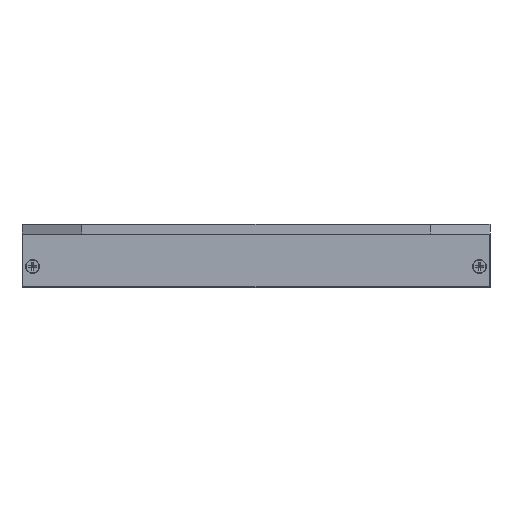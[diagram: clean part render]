
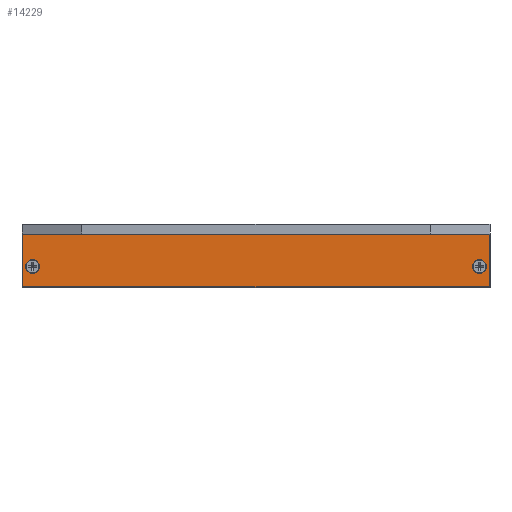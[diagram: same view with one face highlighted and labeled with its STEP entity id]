
A CAD part, front view. The second image highlights one B-rep face of the part: STEP entity #14229.
In plain terms, the highlighted planar face has unit normal (0, -1, 0).
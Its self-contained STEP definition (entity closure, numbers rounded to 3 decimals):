
#341=CARTESIAN_POINT('',(-63.5,-66.5,-9.));
#342=DIRECTION('',(0.,1.,0.));
#343=DIRECTION('',(0.,0.,1.));
#344=AXIS2_PLACEMENT_3D('',#341,#342,#343);
#346=CARTESIAN_POINT('',(-63.5,-66.5,-9.));
#347=DIRECTION('',(0.,1.,0.));
#348=DIRECTION('',(0.,0.,-1.));
#349=AXIS2_PLACEMENT_3D('',#346,#347,#348);
#351=CARTESIAN_POINT('',(63.5,-66.5,-9.));
#352=DIRECTION('',(0.,1.,0.));
#353=DIRECTION('',(0.,0.,-1.));
#354=AXIS2_PLACEMENT_3D('',#351,#352,#353);
#356=CARTESIAN_POINT('',(63.5,-66.5,-9.));
#357=DIRECTION('',(0.,1.,0.));
#358=DIRECTION('',(0.,0.,1.));
#359=AXIS2_PLACEMENT_3D('',#356,#357,#358);
#361=DIRECTION('',(0.,0.,1.));
#362=VECTOR('',#361,14.8);
#363=CARTESIAN_POINT('',(66.3,-66.5,-14.8));
#364=LINE('',#363,#362);
#365=DIRECTION('',(0.,0.,-1.));
#366=VECTOR('',#365,14.8);
#367=CARTESIAN_POINT('',(-66.3,-66.5,0.));
#368=LINE('',#367,#366);
#785=DIRECTION('',(-1.,0.,0.));
#786=VECTOR('',#785,132.6);
#787=CARTESIAN_POINT('',(66.3,-66.5,0.));
#788=LINE('',#787,#786);
#8203=DIRECTION('',(-1.,0.,0.));
#8204=VECTOR('',#8203,132.6);
#8205=CARTESIAN_POINT('',(66.3,-66.5,-14.8));
#8206=LINE('',#8205,#8204);
#11075=CARTESIAN_POINT('',(-66.3,-66.5,-14.8));
#11076=VERTEX_POINT('',#11075);
#11077=CARTESIAN_POINT('',(66.3,-66.5,-14.8));
#11078=VERTEX_POINT('',#11077);
#11079=CARTESIAN_POINT('',(63.5,-66.5,-7.));
#11080=CARTESIAN_POINT('',(63.5,-66.5,-11.));
#11081=VERTEX_POINT('',#11079);
#11082=VERTEX_POINT('',#11080);
#11083=CARTESIAN_POINT('',(-63.5,-66.5,-11.));
#11084=CARTESIAN_POINT('',(-63.5,-66.5,-7.));
#11085=VERTEX_POINT('',#11083);
#11086=VERTEX_POINT('',#11084);
#13339=CARTESIAN_POINT('',(-66.3,-66.5,0.));
#13341=VERTEX_POINT('',#13339);
#13343=CARTESIAN_POINT('',(66.3,-66.5,0.));
#13345=VERTEX_POINT('',#13343);
#14204=CARTESIAN_POINT('',(-66.5,-66.5,-15.));
#14205=DIRECTION('',(0.,-1.,0.));
#14206=DIRECTION('',(0.,0.,1.));
#14207=AXIS2_PLACEMENT_3D('',#14204,#14205,#14206);
#14208=PLANE('',#14207);
#14210=ORIENTED_EDGE('',*,*,#14209,.F.);
#14212=ORIENTED_EDGE('',*,*,#14211,.T.);
#14214=ORIENTED_EDGE('',*,*,#14213,.F.);
#14216=ORIENTED_EDGE('',*,*,#14215,.F.);
#14217=EDGE_LOOP('',(#14210,#14212,#14214,#14216));
#14218=FACE_OUTER_BOUND('',#14217,.F.);
#14219=ORIENTED_EDGE('',*,*,#14197,.F.);
#14220=ORIENTED_EDGE('',*,*,#14183,.F.);
#14221=EDGE_LOOP('',(#14219,#14220));
#14222=FACE_BOUND('',#14221,.F.);
#14224=ORIENTED_EDGE('',*,*,#14223,.F.);
#14226=ORIENTED_EDGE('',*,*,#14225,.F.);
#14227=EDGE_LOOP('',(#14224,#14226));
#14228=FACE_BOUND('',#14227,.F.);
#14229=ADVANCED_FACE('',(#14218,#14222,#14228),#14208,.T.);
#345=CIRCLE('',#344,2.);
#350=CIRCLE('',#349,2.);
#355=CIRCLE('',#354,2.);
#360=CIRCLE('',#359,2.);
#14183=EDGE_CURVE('',#11081,#11082,#360,.T.);
#14197=EDGE_CURVE('',#11082,#11081,#355,.T.);
#14209=EDGE_CURVE('',#11078,#13345,#364,.T.);
#14211=EDGE_CURVE('',#11078,#11076,#8206,.T.);
#14213=EDGE_CURVE('',#13341,#11076,#368,.T.);
#14215=EDGE_CURVE('',#13345,#13341,#788,.T.);
#14223=EDGE_CURVE('',#11086,#11085,#345,.T.);
#14225=EDGE_CURVE('',#11085,#11086,#350,.T.);
